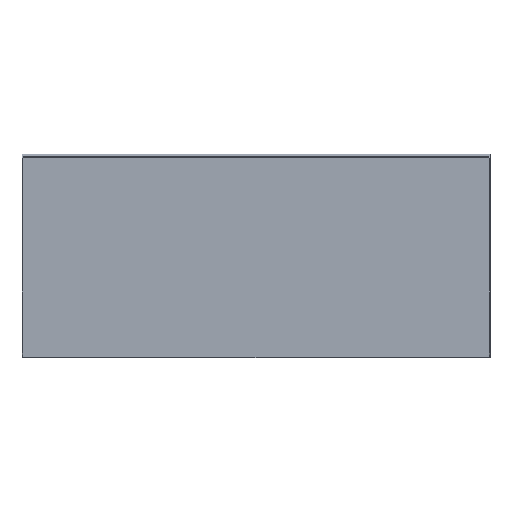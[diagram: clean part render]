
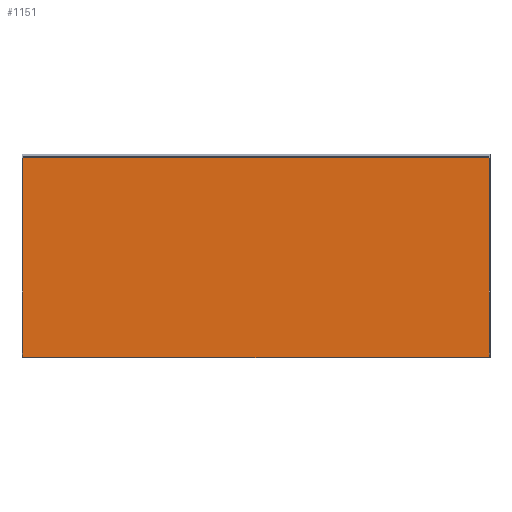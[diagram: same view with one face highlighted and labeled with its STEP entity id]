
A CAD part, front view. The second image highlights one B-rep face of the part: STEP entity #1151.
In plain terms, the highlighted planar face has unit normal (0, -1, 0).
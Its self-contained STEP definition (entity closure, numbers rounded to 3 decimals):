
#18 = VECTOR ( 'NONE', #362, 1000. ) ;
#68 = VERTEX_POINT ( 'NONE', #1158 ) ;
#78 = CARTESIAN_POINT ( 'NONE',  ( -797., -20., -347. ) ) ;
#104 = VERTEX_POINT ( 'NONE', #1270 ) ;
#172 = CARTESIAN_POINT ( 'NONE',  ( -797., -20., 347. ) ) ;
#179 = LINE ( 'NONE', #78, #1535 ) ;
#211 = EDGE_CURVE ( 'NONE', #68, #721, #179, .T. ) ;
#216 = CARTESIAN_POINT ( 'NONE',  ( -797., -20., -347. ) ) ;
#292 = DIRECTION ( 'NONE',  ( 0., 0., -1. ) ) ;
#317 = LINE ( 'NONE', #1384, #615 ) ;
#332 = VERTEX_POINT ( 'NONE', #172 ) ;
#362 = DIRECTION ( 'NONE',  ( 0., 0., 1. ) ) ;
#432 = CARTESIAN_POINT ( 'NONE',  ( 0., -20., 0. ) ) ;
#575 = DIRECTION ( 'NONE',  ( -1., 0., 0. ) ) ;
#615 = VECTOR ( 'NONE', #1245, 1000. ) ;
#701 = EDGE_LOOP ( 'NONE', ( #1606, #1666, #914, #1017 ) ) ;
#704 = PLANE ( 'NONE',  #789 ) ;
#721 = VERTEX_POINT ( 'NONE', #216 ) ;
#765 = EDGE_CURVE ( 'NONE', #332, #104, #317, .T. ) ;
#789 = AXIS2_PLACEMENT_3D ( 'NONE', #432, #1470, #1355 ) ;
#914 = ORIENTED_EDGE ( 'NONE', *, *, #1220, .F. ) ;
#941 = LINE ( 'NONE', #1455, #982 ) ;
#982 = VECTOR ( 'NONE', #292, 1000. ) ;
#1011 = LINE ( 'NONE', #1114, #18 ) ;
#1017 = ORIENTED_EDGE ( 'NONE', *, *, #211, .F. ) ;
#1114 = CARTESIAN_POINT ( 'NONE',  ( -797., -20., 347. ) ) ;
#1151 = ADVANCED_FACE ( 'NONE', ( #1610 ), #704, .T. ) ;
#1158 = CARTESIAN_POINT ( 'NONE',  ( 797., -20., -347. ) ) ;
#1220 = EDGE_CURVE ( 'NONE', #721, #332, #1011, .T. ) ;
#1245 = DIRECTION ( 'NONE',  ( 1., 0., 0. ) ) ;
#1270 = CARTESIAN_POINT ( 'NONE',  ( 797., -20., 347. ) ) ;
#1355 = DIRECTION ( 'NONE',  ( 0., 0., -1. ) ) ;
#1384 = CARTESIAN_POINT ( 'NONE',  ( -797., -20., 347. ) ) ;
#1455 = CARTESIAN_POINT ( 'NONE',  ( 797., -20., 347. ) ) ;
#1470 = DIRECTION ( 'NONE',  ( 0., -1., 0. ) ) ;
#1535 = VECTOR ( 'NONE', #575, 1000. ) ;
#1606 = ORIENTED_EDGE ( 'NONE', *, *, #1612, .F. ) ;
#1610 = FACE_OUTER_BOUND ( 'NONE', #701, .T. ) ;
#1612 = EDGE_CURVE ( 'NONE', #104, #68, #941, .T. ) ;
#1666 = ORIENTED_EDGE ( 'NONE', *, *, #765, .F. ) ;
